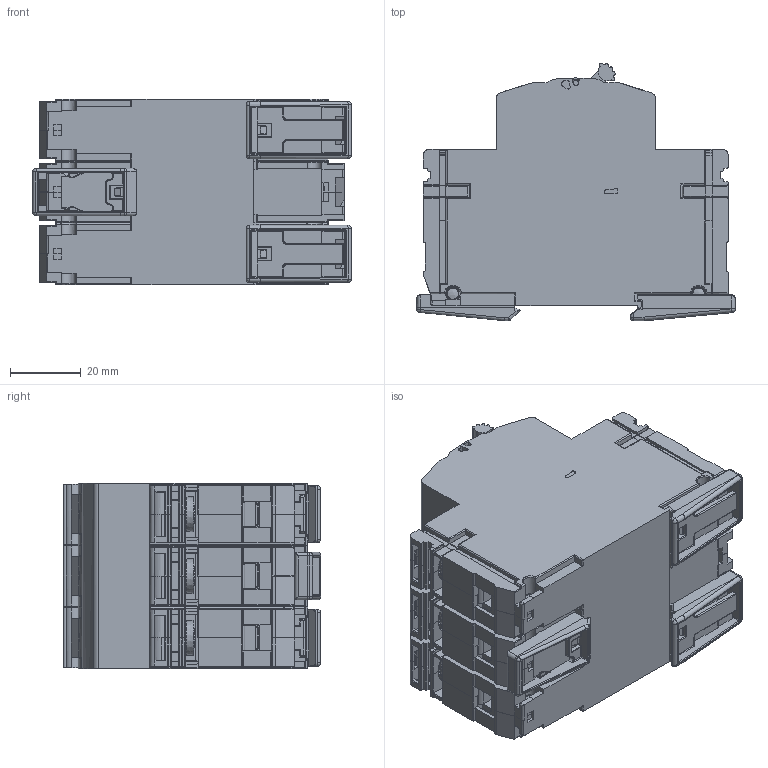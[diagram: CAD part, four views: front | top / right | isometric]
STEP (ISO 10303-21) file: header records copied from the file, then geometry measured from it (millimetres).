
FILE_DESCRIPTION (( 'STEP AP214' ), '1' );
FILE_NAME ('APN-3_zj2.step', '2013-06-24T11:42:52', ( 'Siemens' ), ( 'Siemens' ), 'SwSTEP 2.0', 'SolidWorks 2011', '' );
FILE_SCHEMA (( 'AUTOMOTIVE_DESIGN' ));
Length unit declared in the file: millimetre
Products named in the file (1): APN-3_zj2
Bounding box: 90.21 x 72.92 x 52.6 mm (x, y, z)
Volume: 227545.7 mm3; surface area: 48421 mm2
Topology: 1 solids, 10 shells, 4745 faces, 13458 edges, 8555 vertices
Faces by surface type: plane 2601, cylinder 1462, torus 288, bspline 207, cone 98, sphere 89
Entity records: 231322 total; most frequent: CARTESIAN_POINT 65143, ORIENTED_EDGE 26644, DIRECTION 19355, EDGE_CURVE 13322, VERTEX_POINT 8549, LINE 8273, VECTOR 8273, AXIS2_PLACEMENT_3D 5541
